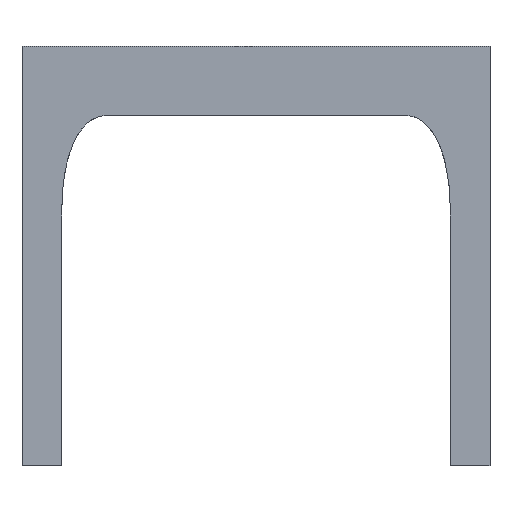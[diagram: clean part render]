
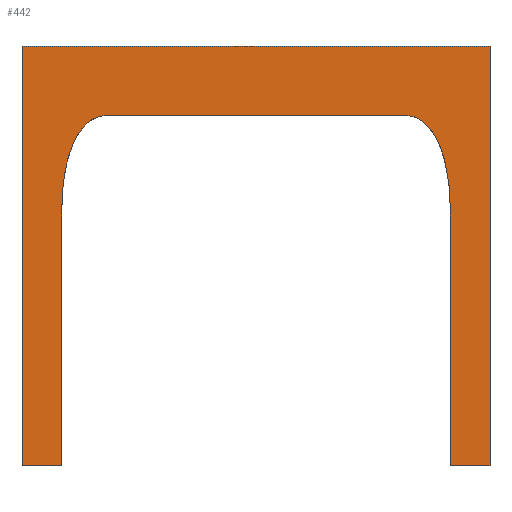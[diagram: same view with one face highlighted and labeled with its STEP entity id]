
A CAD part, top view. The second image highlights one B-rep face of the part: STEP entity #442.
In plain terms, the highlighted planar face has unit normal (0, 0, 1).
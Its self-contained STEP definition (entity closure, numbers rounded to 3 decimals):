
#23=B_SPLINE_CURVE_WITH_KNOTS('',3,(#728,#729,#730,#731,#732,#733,#734,
#735,#736,#737),.UNSPECIFIED.,.F.,.F.,(4,2,2,2,4),(5.697,5.758,
5.854,5.966,6.15),.UNSPECIFIED.);
#24=B_SPLINE_CURVE_WITH_KNOTS('',3,(#759,#760,#761,#762,#763,#764,#765,
#766),.UNSPECIFIED.,.F.,.F.,(4,2,2,4),(6.15,6.24,
6.409,6.924),.UNSPECIFIED.);
#25=B_SPLINE_CURVE_WITH_KNOTS('',3,(#788,#789,#790,#791,#792,#793,#794,
#795),.UNSPECIFIED.,.F.,.F.,(4,2,2,4),(-6.924,-6.561,
-6.359,-6.15),.UNSPECIFIED.);
#26=B_SPLINE_CURVE_WITH_KNOTS('',3,(#824,#825,#826,#827,#828,#829,#830,
#831,#832,#833),.UNSPECIFIED.,.F.,.F.,(4,2,2,2,4),(-6.15,-6.03,
-5.854,-5.768,-5.697),.UNSPECIFIED.);
#48=PLANE('',#482);
#70=FACE_OUTER_BOUND('',#100,.T.);
#100=EDGE_LOOP('',(#405,#406,#407,#408,#409,#410,#411,#412,#413,#414,#415,
#416));
#107=LINE('',#605,#151);
#111=LINE('',#614,#155);
#119=LINE('',#631,#163);
#124=LINE('',#639,#168);
#132=LINE('',#694,#176);
#133=LINE('',#697,#177);
#139=LINE('',#836,#183);
#144=LINE('',#854,#188);
#151=VECTOR('',#505,10.);
#155=VECTOR('',#511,10.);
#163=VECTOR('',#521,10.);
#168=VECTOR('',#528,10.);
#176=VECTOR('',#544,10.);
#177=VECTOR('',#547,10.);
#183=VECTOR('',#555,10.);
#188=VECTOR('',#578,10.);
#205=VERTEX_POINT('',#602);
#206=VERTEX_POINT('',#604);
#209=VERTEX_POINT('',#611);
#210=VERTEX_POINT('',#613);
#217=VERTEX_POINT('',#628);
#218=VERTEX_POINT('',#630);
#227=VERTEX_POINT('',#692);
#228=VERTEX_POINT('',#696);
#229=VERTEX_POINT('',#725);
#230=VERTEX_POINT('',#727);
#231=VERTEX_POINT('',#787);
#232=VERTEX_POINT('',#823);
#247=EDGE_CURVE('',#205,#206,#107,.T.);
#251=EDGE_CURVE('',#209,#210,#111,.T.);
#259=EDGE_CURVE('',#218,#217,#119,.T.);
#264=EDGE_CURVE('',#217,#210,#124,.F.);
#276=EDGE_CURVE('',#209,#227,#132,.F.);
#277=EDGE_CURVE('',#228,#206,#133,.T.);
#280=EDGE_CURVE('',#230,#229,#23,.F.);
#282=EDGE_CURVE('',#227,#230,#24,.F.);
#283=EDGE_CURVE('',#231,#228,#25,.F.);
#285=EDGE_CURVE('',#232,#231,#26,.F.);
#287=EDGE_CURVE('',#229,#232,#139,.F.);
#296=EDGE_CURVE('',#218,#205,#144,.T.);
#405=ORIENTED_EDGE('',*,*,#259,.T.);
#406=ORIENTED_EDGE('',*,*,#264,.T.);
#407=ORIENTED_EDGE('',*,*,#251,.F.);
#408=ORIENTED_EDGE('',*,*,#276,.T.);
#409=ORIENTED_EDGE('',*,*,#282,.T.);
#410=ORIENTED_EDGE('',*,*,#280,.T.);
#411=ORIENTED_EDGE('',*,*,#287,.T.);
#412=ORIENTED_EDGE('',*,*,#285,.T.);
#413=ORIENTED_EDGE('',*,*,#283,.T.);
#414=ORIENTED_EDGE('',*,*,#277,.T.);
#415=ORIENTED_EDGE('',*,*,#247,.F.);
#416=ORIENTED_EDGE('',*,*,#296,.F.);
#442=ADVANCED_FACE('',(#70),#48,.T.);
#482=AXIS2_PLACEMENT_3D('',#855,#579,#580);
#505=DIRECTION('',(-1.,0.,0.));
#511=DIRECTION('',(-1.,0.,0.));
#521=DIRECTION('',(-1.,0.,0.));
#528=DIRECTION('',(0.,1.,0.));
#544=DIRECTION('',(0.,-1.,0.));
#547=DIRECTION('',(0.,-1.,0.));
#555=DIRECTION('',(-1.,0.,0.));
#578=DIRECTION('',(0.,-1.,0.));
#579=DIRECTION('center_axis',(0.,0.,1.));
#580=DIRECTION('ref_axis',(-1.,0.,0.));
#602=CARTESIAN_POINT('',(27.671,-254.8,69.084));
#604=CARTESIAN_POINT('',(22.926,-254.8,69.084));
#605=CARTESIAN_POINT('',(13.724,-254.8,69.084));
#611=CARTESIAN_POINT('',(-23.474,-254.8,69.084));
#613=CARTESIAN_POINT('',(-28.229,-254.8,69.084));
#614=CARTESIAN_POINT('',(13.724,-254.8,69.084));
#628=CARTESIAN_POINT('',(-28.229,-204.7,69.084));
#630=CARTESIAN_POINT('',(27.671,-204.7,69.084));
#631=CARTESIAN_POINT('',(13.724,-204.7,69.084));
#639=CARTESIAN_POINT('',(-28.229,-230.29,69.084));
#692=CARTESIAN_POINT('',(-23.474,-224.143,69.084));
#694=CARTESIAN_POINT('',(-23.474,-255.79,69.084));
#696=CARTESIAN_POINT('',(22.926,-224.143,69.084));
#697=CARTESIAN_POINT('',(22.926,-243.8,69.084));
#725=CARTESIAN_POINT('',(-18.274,-213.002,69.084));
#727=CARTESIAN_POINT('',(-21.954,-216.006,69.084));
#728=CARTESIAN_POINT('Ctrl Pts',(-18.274,-213.002,69.084));
#729=CARTESIAN_POINT('Ctrl Pts',(-18.493,-213.002,69.084));
#730=CARTESIAN_POINT('Ctrl Pts',(-18.748,-213.034,69.084));
#731=CARTESIAN_POINT('Ctrl Pts',(-19.31,-213.178,69.084));
#732=CARTESIAN_POINT('Ctrl Pts',(-19.655,-213.34,69.084));
#733=CARTESIAN_POINT('Ctrl Pts',(-20.278,-213.747,69.084));
#734=CARTESIAN_POINT('Ctrl Pts',(-20.596,-214.034,69.084));
#735=CARTESIAN_POINT('Ctrl Pts',(-21.33,-214.866,69.084));
#736=CARTESIAN_POINT('Ctrl Pts',(-21.656,-215.399,69.084));
#737=CARTESIAN_POINT('Ctrl Pts',(-21.954,-216.006,69.084));
#759=CARTESIAN_POINT('Ctrl Pts',(-21.954,-216.006,69.084));
#760=CARTESIAN_POINT('Ctrl Pts',(-22.1,-216.303,69.084));
#761=CARTESIAN_POINT('Ctrl Pts',(-22.233,-216.613,69.084));
#762=CARTESIAN_POINT('Ctrl Pts',(-22.575,-217.508,69.084));
#763=CARTESIAN_POINT('Ctrl Pts',(-22.742,-218.076,69.084));
#764=CARTESIAN_POINT('Ctrl Pts',(-23.3,-220.36,69.084));
#765=CARTESIAN_POINT('Ctrl Pts',(-23.474,-222.413,69.084));
#766=CARTESIAN_POINT('Ctrl Pts',(-23.474,-224.143,69.084));
#787=CARTESIAN_POINT('',(21.406,-216.006,69.084));
#788=CARTESIAN_POINT('Ctrl Pts',(22.926,-224.143,69.084));
#789=CARTESIAN_POINT('Ctrl Pts',(22.926,-222.922,69.084));
#790=CARTESIAN_POINT('Ctrl Pts',(22.848,-221.54,69.084));
#791=CARTESIAN_POINT('Ctrl Pts',(22.533,-219.5,69.084));
#792=CARTESIAN_POINT('Ctrl Pts',(22.389,-218.814,69.084));
#793=CARTESIAN_POINT('Ctrl Pts',(22.009,-217.447,69.084));
#794=CARTESIAN_POINT('Ctrl Pts',(21.743,-216.693,69.084));
#795=CARTESIAN_POINT('Ctrl Pts',(21.406,-216.006,69.084));
#823=CARTESIAN_POINT('',(17.726,-213.002,69.084));
#824=CARTESIAN_POINT('Ctrl Pts',(21.406,-216.006,69.084));
#825=CARTESIAN_POINT('Ctrl Pts',(21.212,-215.612,69.084));
#826=CARTESIAN_POINT('Ctrl Pts',(21.005,-215.253,69.084));
#827=CARTESIAN_POINT('Ctrl Pts',(20.404,-214.394,69.084));
#828=CARTESIAN_POINT('Ctrl Pts',(19.92,-213.87,69.084));
#829=CARTESIAN_POINT('Ctrl Pts',(19.132,-213.357,69.084));
#830=CARTESIAN_POINT('Ctrl Pts',(18.816,-213.205,69.084));
#831=CARTESIAN_POINT('Ctrl Pts',(18.274,-213.045,69.084));
#832=CARTESIAN_POINT('Ctrl Pts',(17.979,-213.002,69.084));
#833=CARTESIAN_POINT('Ctrl Pts',(17.726,-213.002,69.084));
#836=CARTESIAN_POINT('',(-9.274,-213.002,69.084));
#854=CARTESIAN_POINT('',(27.671,-243.8,69.084));
#855=CARTESIAN_POINT('Origin',(-0.274,-256.78,69.084));
